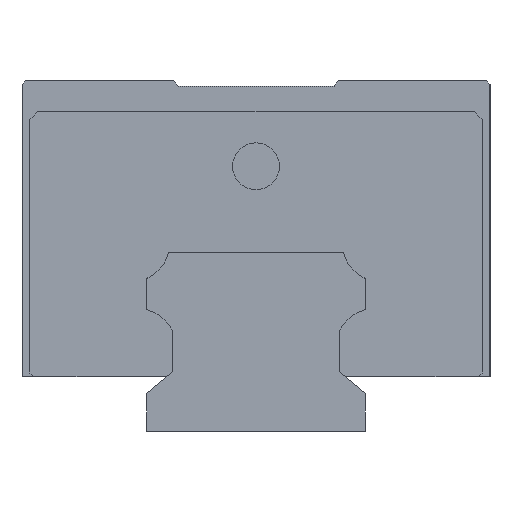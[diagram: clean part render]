
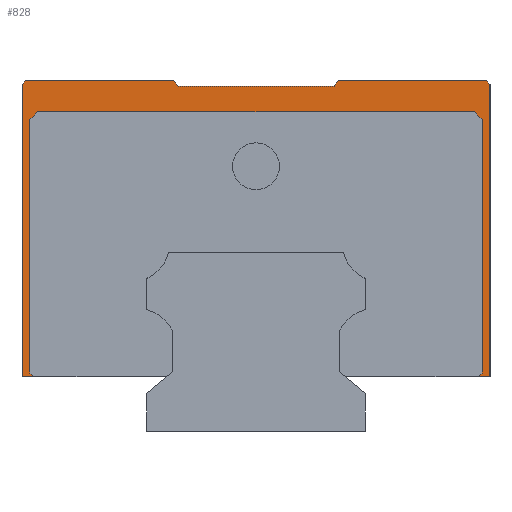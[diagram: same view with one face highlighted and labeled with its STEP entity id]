
A CAD part, left-side view. The second image highlights one B-rep face of the part: STEP entity #828.
In plain terms, the highlighted planar face has unit normal (-1, 0, 0).
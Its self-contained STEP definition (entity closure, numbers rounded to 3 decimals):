
#43 = CARTESIAN_POINT ( 'NONE',  ( -34.65, 10., 44.25 ) ) ;
#131 = CARTESIAN_POINT ( 'NONE',  ( -34.65, 30., 7. ) ) ;
#136 = DIRECTION ( 'NONE',  ( 0., -1., 0. ) ) ;
#158 = VECTOR ( 'NONE', #2906, 1000. ) ;
#208 = VERTEX_POINT ( 'NONE', #4555 ) ;
#220 = LINE ( 'NONE', #3317, #3175 ) ;
#247 = EDGE_CURVE ( 'NONE', #480, #300, #5548, .T. ) ;
#253 = DIRECTION ( 'NONE',  ( 0., 0.707, -0.707 ) ) ;
#300 = VERTEX_POINT ( 'NONE', #4755 ) ;
#303 = DIRECTION ( 'NONE',  ( 0., -0.707, -0.707 ) ) ;
#310 = CARTESIAN_POINT ( 'NONE',  ( -34.65, -10.629, 45. ) ) ;
#328 = VERTEX_POINT ( 'NONE', #3882 ) ;
#343 = VERTEX_POINT ( 'NONE', #3768 ) ;
#480 = VERTEX_POINT ( 'NONE', #5256 ) ;
#508 = ORIENTED_EDGE ( 'NONE', *, *, #4770, .T. ) ;
#511 = DIRECTION ( 'NONE',  ( 0., 0.707, -0.707 ) ) ;
#517 = CARTESIAN_POINT ( 'NONE',  ( -34.65, -29.5, 45. ) ) ;
#571 = ORIENTED_EDGE ( 'NONE', *, *, #3483, .T. ) ;
#608 = LINE ( 'NONE', #2462, #158 ) ;
#644 = ORIENTED_EDGE ( 'NONE', *, *, #4461, .T. ) ;
#698 = ORIENTED_EDGE ( 'NONE', *, *, #2981, .F. ) ;
#708 = LINE ( 'NONE', #2125, #4054 ) ;
#828 = ADVANCED_FACE ( 'NONE', ( #2699 ), #4426, .F. ) ;
#836 = CARTESIAN_POINT ( 'NONE',  ( -34.65, 28.5, 7. ) ) ;
#905 = ORIENTED_EDGE ( 'NONE', *, *, #5088, .F. ) ;
#953 = CARTESIAN_POINT ( 'NONE',  ( -34.65, -30., 45. ) ) ;
#1019 = VERTEX_POINT ( 'NONE', #3252 ) ;
#1079 = CARTESIAN_POINT ( 'NONE',  ( -34.65, 10., 44.25 ) ) ;
#1108 = EDGE_CURVE ( 'NONE', #208, #328, #4764, .T. ) ;
#1211 = CARTESIAN_POINT ( 'NONE',  ( -34.65, -10.629, 45. ) ) ;
#1285 = VECTOR ( 'NONE', #2446, 1000. ) ;
#1289 = VECTOR ( 'NONE', #2649, 1000. ) ;
#1301 = LINE ( 'NONE', #1689, #1289 ) ;
#1395 = CARTESIAN_POINT ( 'NONE',  ( -34.65, 30., 45. ) ) ;
#1449 = LINE ( 'NONE', #1395, #4162 ) ;
#1555 = LINE ( 'NONE', #2405, #2838 ) ;
#1605 = EDGE_LOOP ( 'NONE', ( #2840, #644, #3360, #5016, #4716, #2951, #3199, #571, #1692, #5670, #3832, #2541, #508, #3038, #4008, #698, #5616, #905 ) ) ;
#1634 = VERTEX_POINT ( 'NONE', #3474 ) ;
#1689 = CARTESIAN_POINT ( 'NONE',  ( -34.65, -30., 45. ) ) ;
#1692 = ORIENTED_EDGE ( 'NONE', *, *, #2026, .F. ) ;
#1695 = CARTESIAN_POINT ( 'NONE',  ( -34.65, 28., 41. ) ) ;
#1737 = VECTOR ( 'NONE', #5258, 1000. ) ;
#1746 = LINE ( 'NONE', #2154, #2877 ) ;
#1801 = CARTESIAN_POINT ( 'NONE',  ( -34.65, -30., 7. ) ) ;
#1888 = EDGE_CURVE ( 'NONE', #4036, #3772, #2742, .T. ) ;
#1909 = VECTOR ( 'NONE', #303, 1000. ) ;
#1938 = DIRECTION ( 'NONE',  ( 0., 0., 1. ) ) ;
#1968 = CARTESIAN_POINT ( 'NONE',  ( -34.65, 11.769, 7. ) ) ;
#1973 = CARTESIAN_POINT ( 'NONE',  ( -34.65, 28.5, 7. ) ) ;
#2026 = EDGE_CURVE ( 'NONE', #4901, #4661, #1746, .T. ) ;
#2043 = EDGE_CURVE ( 'NONE', #4425, #4901, #1301, .T. ) ;
#2125 = CARTESIAN_POINT ( 'NONE',  ( -34.65, 29., 40. ) ) ;
#2154 = CARTESIAN_POINT ( 'NONE',  ( -34.65, -30., 7. ) ) ;
#2181 = VECTOR ( 'NONE', #511, 1000. ) ;
#2215 = DIRECTION ( 'NONE',  ( 0., 0.707, 0.707 ) ) ;
#2379 = LINE ( 'NONE', #43, #5594 ) ;
#2405 = CARTESIAN_POINT ( 'NONE',  ( -34.65, -29., 40. ) ) ;
#2446 = DIRECTION ( 'NONE',  ( 0., 0., 1. ) ) ;
#2462 = CARTESIAN_POINT ( 'NONE',  ( -34.65, -30., 44.5 ) ) ;
#2540 = VERTEX_POINT ( 'NONE', #4996 ) ;
#2541 = ORIENTED_EDGE ( 'NONE', *, *, #1888, .F. ) ;
#2562 = DIRECTION ( 'NONE',  ( 0., 0.643, -0.766 ) ) ;
#2649 = DIRECTION ( 'NONE',  ( 0., 0., -1. ) ) ;
#2699 = FACE_OUTER_BOUND ( 'NONE', #1605, .T. ) ;
#2732 = EDGE_CURVE ( 'NONE', #5467, #208, #5145, .T. ) ;
#2742 = LINE ( 'NONE', #3270, #5402 ) ;
#2796 = VECTOR ( 'NONE', #2562, 1000. ) ;
#2830 = DIRECTION ( 'NONE',  ( 0., -1., 0. ) ) ;
#2832 = CARTESIAN_POINT ( 'NONE',  ( -34.65, -28.5, 7. ) ) ;
#2838 = VECTOR ( 'NONE', #3374, 1000. ) ;
#2840 = ORIENTED_EDGE ( 'NONE', *, *, #5196, .F. ) ;
#2859 = CARTESIAN_POINT ( 'NONE',  ( -34.65, 29., 7.5 ) ) ;
#2877 = VECTOR ( 'NONE', #3941, 1000. ) ;
#2882 = VECTOR ( 'NONE', #2215, 1000. ) ;
#2906 = DIRECTION ( 'NONE',  ( 0., 0.707, 0.707 ) ) ;
#2930 = CARTESIAN_POINT ( 'NONE',  ( -34.65, -10., 44.25 ) ) ;
#2950 = VERTEX_POINT ( 'NONE', #1973 ) ;
#2951 = ORIENTED_EDGE ( 'NONE', *, *, #1108, .T. ) ;
#2964 = DIRECTION ( 'NONE',  ( 0., 1., 0. ) ) ;
#2981 = EDGE_CURVE ( 'NONE', #1019, #2540, #1449, .T. ) ;
#3032 = CARTESIAN_POINT ( 'NONE',  ( -34.65, -10., 44.25 ) ) ;
#3038 = ORIENTED_EDGE ( 'NONE', *, *, #3958, .T. ) ;
#3175 = VECTOR ( 'NONE', #253, 1000. ) ;
#3199 = ORIENTED_EDGE ( 'NONE', *, *, #3859, .T. ) ;
#3252 = CARTESIAN_POINT ( 'NONE',  ( -34.65, 29.5, 45. ) ) ;
#3270 = CARTESIAN_POINT ( 'NONE',  ( -34.65, 30., 45. ) ) ;
#3287 = VERTEX_POINT ( 'NONE', #3032 ) ;
#3317 = CARTESIAN_POINT ( 'NONE',  ( -34.65, -29., 7.5 ) ) ;
#3318 = LINE ( 'NONE', #1968, #4658 ) ;
#3360 = ORIENTED_EDGE ( 'NONE', *, *, #247, .T. ) ;
#3374 = DIRECTION ( 'NONE',  ( 0., 0., -1. ) ) ;
#3474 = CARTESIAN_POINT ( 'NONE',  ( -34.65, 30., 44.5 ) ) ;
#3483 = EDGE_CURVE ( 'NONE', #343, #4661, #220, .T. ) ;
#3487 = EDGE_CURVE ( 'NONE', #4425, #3772, #608, .T. ) ;
#3506 = CARTESIAN_POINT ( 'NONE',  ( -34.65, -30., 44.5 ) ) ;
#3643 = LINE ( 'NONE', #131, #4474 ) ;
#3768 = CARTESIAN_POINT ( 'NONE',  ( -34.65, -29., 7.5 ) ) ;
#3772 = VERTEX_POINT ( 'NONE', #517 ) ;
#3832 = ORIENTED_EDGE ( 'NONE', *, *, #3487, .T. ) ;
#3844 = DIRECTION ( 'NONE',  ( 0., 1., 0. ) ) ;
#3859 = EDGE_CURVE ( 'NONE', #328, #343, #1555, .T. ) ;
#3879 = LINE ( 'NONE', #1211, #2796 ) ;
#3882 = CARTESIAN_POINT ( 'NONE',  ( -34.65, -29., 40. ) ) ;
#3928 = CARTESIAN_POINT ( 'NONE',  ( -34.65, -28., 41. ) ) ;
#3941 = DIRECTION ( 'NONE',  ( 0., 1., 0. ) ) ;
#3958 = EDGE_CURVE ( 'NONE', #3287, #5124, #4310, .T. ) ;
#4008 = ORIENTED_EDGE ( 'NONE', *, *, #5072, .T. ) ;
#4036 = VERTEX_POINT ( 'NONE', #310 ) ;
#4054 = VECTOR ( 'NONE', #5259, 1000. ) ;
#4144 = EDGE_CURVE ( 'NONE', #1019, #1634, #5416, .T. ) ;
#4162 = VECTOR ( 'NONE', #136, 1000. ) ;
#4166 = DIRECTION ( 'NONE',  ( 0., 0.643, 0.766 ) ) ;
#4280 = CARTESIAN_POINT ( 'NONE',  ( -34.65, 30., 7. ) ) ;
#4310 = LINE ( 'NONE', #2930, #5738 ) ;
#4406 = EDGE_CURVE ( 'NONE', #300, #5467, #708, .T. ) ;
#4425 = VERTEX_POINT ( 'NONE', #3506 ) ;
#4426 = PLANE ( 'NONE',  #4518 ) ;
#4453 = DIRECTION ( 'NONE',  ( 1., 0., 0. ) ) ;
#4461 = EDGE_CURVE ( 'NONE', #2950, #480, #4468, .T. ) ;
#4468 = LINE ( 'NONE', #836, #2882 ) ;
#4474 = VECTOR ( 'NONE', #1938, 1000. ) ;
#4518 = AXIS2_PLACEMENT_3D ( 'NONE', #953, #4453, #4864 ) ;
#4555 = CARTESIAN_POINT ( 'NONE',  ( -34.65, -28., 41. ) ) ;
#4658 = VECTOR ( 'NONE', #2964, 1000. ) ;
#4661 = VERTEX_POINT ( 'NONE', #2832 ) ;
#4716 = ORIENTED_EDGE ( 'NONE', *, *, #2732, .T. ) ;
#4755 = CARTESIAN_POINT ( 'NONE',  ( -34.65, 29., 40. ) ) ;
#4764 = LINE ( 'NONE', #3928, #1909 ) ;
#4770 = EDGE_CURVE ( 'NONE', #4036, #3287, #3879, .T. ) ;
#4864 = DIRECTION ( 'NONE',  ( 0., 1., 0. ) ) ;
#4901 = VERTEX_POINT ( 'NONE', #1801 ) ;
#4996 = CARTESIAN_POINT ( 'NONE',  ( -34.65, 10.629, 45. ) ) ;
#5016 = ORIENTED_EDGE ( 'NONE', *, *, #4406, .T. ) ;
#5072 = EDGE_CURVE ( 'NONE', #5124, #2540, #2379, .T. ) ;
#5088 = EDGE_CURVE ( 'NONE', #5277, #1634, #3643, .T. ) ;
#5124 = VERTEX_POINT ( 'NONE', #1079 ) ;
#5145 = LINE ( 'NONE', #1695, #1737 ) ;
#5196 = EDGE_CURVE ( 'NONE', #2950, #5277, #3318, .T. ) ;
#5256 = CARTESIAN_POINT ( 'NONE',  ( -34.65, 29., 7.5 ) ) ;
#5258 = DIRECTION ( 'NONE',  ( 0., -1., 0. ) ) ;
#5259 = DIRECTION ( 'NONE',  ( 0., -0.707, 0.707 ) ) ;
#5277 = VERTEX_POINT ( 'NONE', #4280 ) ;
#5383 = CARTESIAN_POINT ( 'NONE',  ( -34.65, 29.5, 45. ) ) ;
#5402 = VECTOR ( 'NONE', #2830, 1000. ) ;
#5416 = LINE ( 'NONE', #5383, #2181 ) ;
#5467 = VERTEX_POINT ( 'NONE', #5473 ) ;
#5473 = CARTESIAN_POINT ( 'NONE',  ( -34.65, 28., 41. ) ) ;
#5548 = LINE ( 'NONE', #2859, #1285 ) ;
#5594 = VECTOR ( 'NONE', #4166, 1000. ) ;
#5616 = ORIENTED_EDGE ( 'NONE', *, *, #4144, .T. ) ;
#5670 = ORIENTED_EDGE ( 'NONE', *, *, #2043, .F. ) ;
#5738 = VECTOR ( 'NONE', #3844, 1000. ) ;
